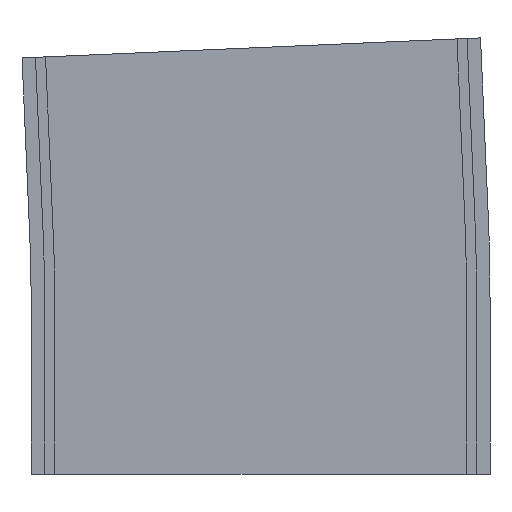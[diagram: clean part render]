
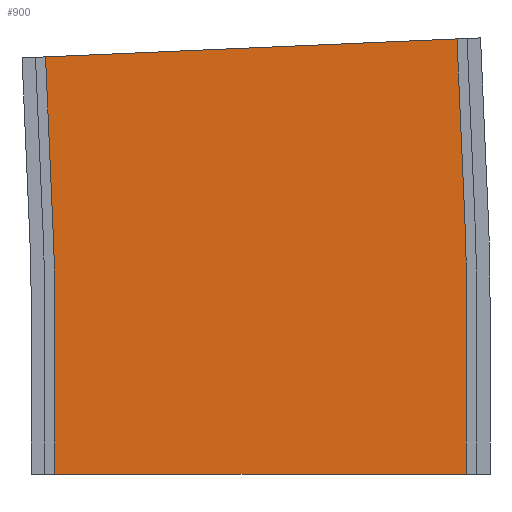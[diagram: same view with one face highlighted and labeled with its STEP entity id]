
A CAD part, left-side view. The second image highlights one B-rep face of the part: STEP entity #900.
In plain terms, the highlighted planar face has unit normal (-1, 0, 0).
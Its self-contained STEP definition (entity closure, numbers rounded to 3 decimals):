
#67 = LINE ( 'NONE', #1382, #762 ) ;
#83 = AXIS2_PLACEMENT_3D ( 'NONE', #196, #408, #1281 ) ;
#88 = DIRECTION ( 'NONE',  ( 0., 0., 1. ) ) ;
#104 = CARTESIAN_POINT ( 'NONE',  ( -325.25, -58.426, 129.431 ) ) ;
#117 = LINE ( 'NONE', #652, #759 ) ;
#148 = EDGE_CURVE ( 'NONE', #164, #1167, #946, .T. ) ;
#164 = VERTEX_POINT ( 'NONE', #515 ) ;
#196 = CARTESIAN_POINT ( 'NONE',  ( -325.25, 500., 52.5 ) ) ;
#201 = CARTESIAN_POINT ( 'NONE',  ( -325.25, -60.716, 76.981 ) ) ;
#270 = FACE_OUTER_BOUND ( 'NONE', #1044, .T. ) ;
#286 = VECTOR ( 'NONE', #977, 1000. ) ;
#294 = ORIENTED_EDGE ( 'NONE', *, *, #1136, .T. ) ;
#318 = CARTESIAN_POINT ( 'NONE',  ( -325.25, 61.668, 71.638 ) ) ;
#321 = PLANE ( 'NONE',  #400 ) ;
#400 = AXIS2_PLACEMENT_3D ( 'NONE', #1068, #428, #846 ) ;
#408 = DIRECTION ( 'NONE',  ( -1., 0., 0. ) ) ;
#410 = DIRECTION ( 'NONE',  ( 0., 0., -1. ) ) ;
#428 = DIRECTION ( 'NONE',  ( 1., 0., 0. ) ) ;
#484 = ORIENTED_EDGE ( 'NONE', *, *, #1013, .F. ) ;
#496 = VERTEX_POINT ( 'NONE', #593 ) ;
#508 = CARTESIAN_POINT ( 'NONE',  ( -325.25, 61.668, 71.638 ) ) ;
#515 = CARTESIAN_POINT ( 'NONE',  ( -325.25, -61.25, 52.5 ) ) ;
#524 = CARTESIAN_POINT ( 'NONE',  ( -325.25, 61.25, 52.5 ) ) ;
#525 = DIRECTION ( 'NONE',  ( 0., -1., 0. ) ) ;
#531 = CARTESIAN_POINT ( 'NONE',  ( -325.25, 500., 52.5 ) ) ;
#566 = CARTESIAN_POINT ( 'NONE',  ( -325.25, 61.25, 0. ) ) ;
#593 = CARTESIAN_POINT ( 'NONE',  ( -325.25, 63.958, 124.088 ) ) ;
#604 = ORIENTED_EDGE ( 'NONE', *, *, #994, .T. ) ;
#652 = CARTESIAN_POINT ( 'NONE',  ( -325.25, -61.25, 0. ) ) ;
#654 = VERTEX_POINT ( 'NONE', #1263 ) ;
#714 = VERTEX_POINT ( 'NONE', #508 ) ;
#736 = DIRECTION ( 'NONE',  ( -1., 0., 0. ) ) ;
#738 = EDGE_CURVE ( 'NONE', #921, #714, #915, .T. ) ;
#744 = LINE ( 'NONE', #981, #901 ) ;
#759 = VECTOR ( 'NONE', #525, 1000. ) ;
#762 = VECTOR ( 'NONE', #1391, 1000. ) ;
#777 = EDGE_CURVE ( 'NONE', #714, #496, #1209, .T. ) ;
#818 = EDGE_CURVE ( 'NONE', #496, #1194, #67, .T. ) ;
#845 = VECTOR ( 'NONE', #1168, 1000. ) ;
#846 = DIRECTION ( 'NONE',  ( 0., 0., -1. ) ) ;
#876 = ORIENTED_EDGE ( 'NONE', *, *, #148, .T. ) ;
#900 = ADVANCED_FACE ( 'NONE', ( #270 ), #321, .F. ) ;
#901 = VECTOR ( 'NONE', #1408, 1000. ) ;
#915 = CIRCLE ( 'NONE', #1138, 438.75 ) ;
#919 = EDGE_CURVE ( 'NONE', #921, #1393, #1188, .T. ) ;
#921 = VERTEX_POINT ( 'NONE', #524 ) ;
#946 = CIRCLE ( 'NONE', #83, 561.25 ) ;
#977 = DIRECTION ( 'NONE',  ( 0., 0., -1. ) ) ;
#981 = CARTESIAN_POINT ( 'NONE',  ( -325.25, -60.716, 76.981 ) ) ;
#988 = ORIENTED_EDGE ( 'NONE', *, *, #919, .T. ) ;
#994 = EDGE_CURVE ( 'NONE', #1167, #1194, #744, .T. ) ;
#1013 = EDGE_CURVE ( 'NONE', #164, #654, #1070, .T. ) ;
#1044 = EDGE_LOOP ( 'NONE', ( #294, #484, #876, #604, #1149, #1377, #1229, #988 ) ) ;
#1068 = CARTESIAN_POINT ( 'NONE',  ( -325.25, -61.25, 52.5 ) ) ;
#1070 = LINE ( 'NONE', #1315, #286 ) ;
#1136 = EDGE_CURVE ( 'NONE', #1393, #654, #117, .T. ) ;
#1138 = AXIS2_PLACEMENT_3D ( 'NONE', #531, #736, #88 ) ;
#1149 = ORIENTED_EDGE ( 'NONE', *, *, #818, .F. ) ;
#1167 = VERTEX_POINT ( 'NONE', #201 ) ;
#1168 = DIRECTION ( 'NONE',  ( 0., 0.044, 0.999 ) ) ;
#1187 = CARTESIAN_POINT ( 'NONE',  ( -325.25, 61.25, 52.5 ) ) ;
#1188 = LINE ( 'NONE', #1187, #1266 ) ;
#1194 = VERTEX_POINT ( 'NONE', #104 ) ;
#1209 = LINE ( 'NONE', #318, #845 ) ;
#1229 = ORIENTED_EDGE ( 'NONE', *, *, #738, .F. ) ;
#1263 = CARTESIAN_POINT ( 'NONE',  ( -325.25, -61.25, 0. ) ) ;
#1266 = VECTOR ( 'NONE', #410, 1000. ) ;
#1281 = DIRECTION ( 'NONE',  ( 0., 0., 1. ) ) ;
#1315 = CARTESIAN_POINT ( 'NONE',  ( -325.25, -61.25, 52.5 ) ) ;
#1377 = ORIENTED_EDGE ( 'NONE', *, *, #777, .F. ) ;
#1382 = CARTESIAN_POINT ( 'NONE',  ( -325.25, -58.426, 129.431 ) ) ;
#1391 = DIRECTION ( 'NONE',  ( 0., -0.999, 0.044 ) ) ;
#1393 = VERTEX_POINT ( 'NONE', #566 ) ;
#1408 = DIRECTION ( 'NONE',  ( 0., 0.044, 0.999 ) ) ;
